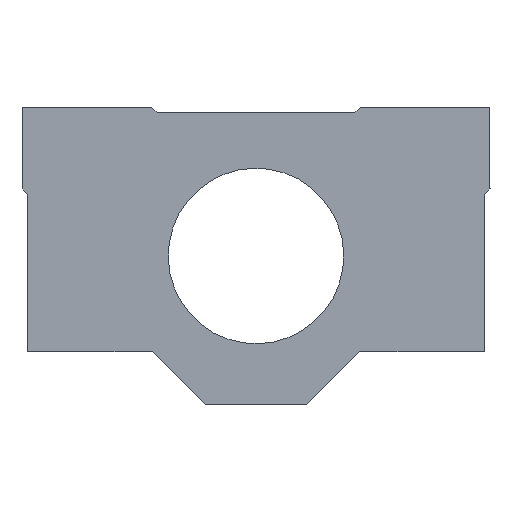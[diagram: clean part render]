
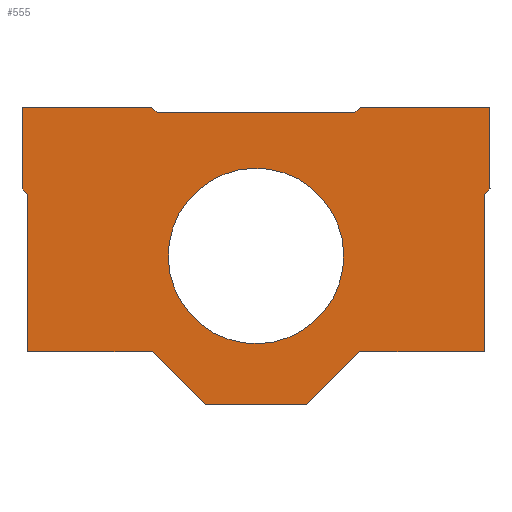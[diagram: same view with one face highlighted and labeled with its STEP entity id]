
A CAD part, left-side view. The second image highlights one B-rep face of the part: STEP entity #555.
In plain terms, the highlighted planar face has unit normal (-1, 0, 0).
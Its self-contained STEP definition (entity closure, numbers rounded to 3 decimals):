
#135=CARTESIAN_POINT('Vertex',(0.,21.5,-9.)) ;
#151=CARTESIAN_POINT('Vertex',(0.,9.75,-9.)) ;
#154=CARTESIAN_POINT('Line Origine',(0.,15.625,-9.)) ;
#197=CARTESIAN_POINT('Vertex',(0.,9.8,14.)) ;
#213=CARTESIAN_POINT('Vertex',(0.,22.,14.)) ;
#216=CARTESIAN_POINT('Line Origine',(0.,15.9,14.)) ;
#255=CARTESIAN_POINT('Line Origine',(0.,21.5,-1.6)) ;
#259=CARTESIAN_POINT('Vertex',(0.,21.5,5.8)) ;
#419=CARTESIAN_POINT('Vertex',(0.,4.75,-14.)) ;
#422=CARTESIAN_POINT('Line Origine',(0.,7.25,-11.5)) ;
#434=CARTESIAN_POINT('Axis2P3D Location',(0.,0.,0.)) ;
#439=CARTESIAN_POINT('Line Origine',(0.,0.,-14.)) ;
#443=CARTESIAN_POINT('Vertex',(0.,-4.75,-14.)) ;
#446=CARTESIAN_POINT('Line Origine',(0.,-7.25,-11.5)) ;
#450=CARTESIAN_POINT('Vertex',(0.,-9.75,-9.)) ;
#453=CARTESIAN_POINT('Line Origine',(0.,-15.625,-9.)) ;
#457=CARTESIAN_POINT('Vertex',(0.,-21.5,-9.)) ;
#460=CARTESIAN_POINT('Line Origine',(0.,-21.5,-1.6)) ;
#464=CARTESIAN_POINT('Vertex',(0.,-21.5,5.8)) ;
#467=CARTESIAN_POINT('Line Origine',(0.,-21.75,6.05)) ;
#471=CARTESIAN_POINT('Vertex',(0.,-22.,6.3)) ;
#474=CARTESIAN_POINT('Line Origine',(0.,-22.,10.15)) ;
#478=CARTESIAN_POINT('Vertex',(0.,-22.,14.)) ;
#481=CARTESIAN_POINT('Line Origine',(0.,-15.9,14.)) ;
#485=CARTESIAN_POINT('Vertex',(0.,-9.8,14.)) ;
#488=CARTESIAN_POINT('Line Origine',(0.,-9.55,13.75)) ;
#492=CARTESIAN_POINT('Vertex',(0.,-9.3,13.5)) ;
#495=CARTESIAN_POINT('Line Origine',(0.,0.,13.5)) ;
#499=CARTESIAN_POINT('Vertex',(0.,9.3,13.5)) ;
#502=CARTESIAN_POINT('Line Origine',(0.,9.55,13.75)) ;
#507=CARTESIAN_POINT('Line Origine',(0.,22.,10.15)) ;
#511=CARTESIAN_POINT('Vertex',(0.,22.,6.3)) ;
#514=CARTESIAN_POINT('Line Origine',(0.,21.75,6.05)) ;
#537=CARTESIAN_POINT('Axis2P3D Location',(0.,0.,0.)) ;
#541=CARTESIAN_POINT('Vertex',(0.,-7.24,-3.955)) ;
#543=CARTESIAN_POINT('Vertex',(0.,7.24,3.955)) ;
#546=CARTESIAN_POINT('Axis2P3D Location',(0.,0.,0.)) ;
#155=DIRECTION('Vector Direction',(0.,-1.,0.)) ;
#217=DIRECTION('Vector Direction',(0.,1.,0.)) ;
#256=DIRECTION('Vector Direction',(0.,0.,-1.)) ;
#423=DIRECTION('Vector Direction',(0.,-0.707,-0.707)) ;
#435=DIRECTION('Axis2P3D Direction',(1.,0.,0.)) ;
#436=DIRECTION('Axis2P3D XDirection',(0.,1.,0.)) ;
#440=DIRECTION('Vector Direction',(0.,-1.,0.)) ;
#447=DIRECTION('Vector Direction',(0.,0.707,-0.707)) ;
#454=DIRECTION('Vector Direction',(0.,1.,0.)) ;
#461=DIRECTION('Vector Direction',(0.,0.,-1.)) ;
#468=DIRECTION('Vector Direction',(0.,0.707,-0.707)) ;
#475=DIRECTION('Vector Direction',(0.,0.,-1.)) ;
#482=DIRECTION('Vector Direction',(0.,1.,0.)) ;
#489=DIRECTION('Vector Direction',(0.,0.707,-0.707)) ;
#496=DIRECTION('Vector Direction',(0.,1.,0.)) ;
#503=DIRECTION('Vector Direction',(0.,0.707,0.707)) ;
#508=DIRECTION('Vector Direction',(0.,0.,1.)) ;
#515=DIRECTION('Vector Direction',(0.,-0.707,-0.707)) ;
#538=DIRECTION('Axis2P3D Direction',(1.,0.,0.)) ;
#547=DIRECTION('Axis2P3D Direction',(1.,0.,0.)) ;
#437=AXIS2_PLACEMENT_3D('Plane Axis2P3D',#434,#435,#436) ;
#539=AXIS2_PLACEMENT_3D('Circle Axis2P3D',#537,#538,$) ;
#548=AXIS2_PLACEMENT_3D('Circle Axis2P3D',#546,#547,$) ;
#520=ORIENTED_EDGE('',*,*,#445,.F.) ;
#521=ORIENTED_EDGE('',*,*,#452,.F.) ;
#522=ORIENTED_EDGE('',*,*,#459,.F.) ;
#523=ORIENTED_EDGE('',*,*,#466,.F.) ;
#524=ORIENTED_EDGE('',*,*,#473,.F.) ;
#525=ORIENTED_EDGE('',*,*,#480,.F.) ;
#526=ORIENTED_EDGE('',*,*,#487,.F.) ;
#527=ORIENTED_EDGE('',*,*,#494,.T.) ;
#528=ORIENTED_EDGE('',*,*,#501,.T.) ;
#529=ORIENTED_EDGE('',*,*,#506,.T.) ;
#530=ORIENTED_EDGE('',*,*,#220,.F.) ;
#531=ORIENTED_EDGE('',*,*,#513,.F.) ;
#532=ORIENTED_EDGE('',*,*,#518,.F.) ;
#533=ORIENTED_EDGE('',*,*,#261,.F.) ;
#534=ORIENTED_EDGE('',*,*,#158,.F.) ;
#535=ORIENTED_EDGE('',*,*,#426,.F.) ;
#552=ORIENTED_EDGE('',*,*,#545,.T.) ;
#553=ORIENTED_EDGE('',*,*,#550,.T.) ;
#554=FACE_BOUND('',#551,.T.) ;
#156=VECTOR('Line Direction',#155,1.) ;
#218=VECTOR('Line Direction',#217,1.) ;
#257=VECTOR('Line Direction',#256,1.) ;
#424=VECTOR('Line Direction',#423,1.) ;
#441=VECTOR('Line Direction',#440,1.) ;
#448=VECTOR('Line Direction',#447,1.) ;
#455=VECTOR('Line Direction',#454,1.) ;
#462=VECTOR('Line Direction',#461,1.) ;
#469=VECTOR('Line Direction',#468,1.) ;
#476=VECTOR('Line Direction',#475,1.) ;
#483=VECTOR('Line Direction',#482,1.) ;
#490=VECTOR('Line Direction',#489,1.) ;
#497=VECTOR('Line Direction',#496,1.) ;
#504=VECTOR('Line Direction',#503,1.) ;
#509=VECTOR('Line Direction',#508,1.) ;
#516=VECTOR('Line Direction',#515,1.) ;
#555=ADVANCED_FACE('BTM16',(#536,#554),#438,.F.) ;
#540=CIRCLE('generated circle',#539,8.25) ;
#549=CIRCLE('generated circle',#548,8.25) ;
#158=EDGE_CURVE('',#152,#136,#157,.F.) ;
#220=EDGE_CURVE('',#214,#198,#219,.F.) ;
#261=EDGE_CURVE('',#136,#260,#258,.F.) ;
#426=EDGE_CURVE('',#420,#152,#425,.F.) ;
#445=EDGE_CURVE('',#444,#420,#442,.F.) ;
#452=EDGE_CURVE('',#451,#444,#449,.T.) ;
#459=EDGE_CURVE('',#458,#451,#456,.T.) ;
#466=EDGE_CURVE('',#465,#458,#463,.T.) ;
#473=EDGE_CURVE('',#472,#465,#470,.T.) ;
#480=EDGE_CURVE('',#479,#472,#477,.T.) ;
#487=EDGE_CURVE('',#486,#479,#484,.F.) ;
#494=EDGE_CURVE('',#486,#493,#491,.T.) ;
#501=EDGE_CURVE('',#493,#500,#498,.T.) ;
#506=EDGE_CURVE('',#500,#198,#505,.T.) ;
#513=EDGE_CURVE('',#512,#214,#510,.T.) ;
#518=EDGE_CURVE('',#260,#512,#517,.F.) ;
#545=EDGE_CURVE('',#542,#544,#540,.T.) ;
#550=EDGE_CURVE('',#544,#542,#549,.T.) ;
#519=EDGE_LOOP('',(#520,#521,#522,#523,#524,#525,#526,#527,#528,#529,#530,#531,#532,#533,#534,#535)) ;
#551=EDGE_LOOP('',(#552,#553)) ;
#536=FACE_OUTER_BOUND('',#519,.T.) ;
#157=LINE('Line',#154,#156) ;
#219=LINE('Line',#216,#218) ;
#258=LINE('Line',#255,#257) ;
#425=LINE('Line',#422,#424) ;
#442=LINE('Line',#439,#441) ;
#449=LINE('Line',#446,#448) ;
#456=LINE('Line',#453,#455) ;
#463=LINE('Line',#460,#462) ;
#470=LINE('Line',#467,#469) ;
#477=LINE('Line',#474,#476) ;
#484=LINE('Line',#481,#483) ;
#491=LINE('Line',#488,#490) ;
#498=LINE('Line',#495,#497) ;
#505=LINE('Line',#502,#504) ;
#510=LINE('Line',#507,#509) ;
#517=LINE('Line',#514,#516) ;
#438=PLANE('',#437) ;
#136=VERTEX_POINT('',#135) ;
#152=VERTEX_POINT('',#151) ;
#198=VERTEX_POINT('',#197) ;
#214=VERTEX_POINT('',#213) ;
#260=VERTEX_POINT('',#259) ;
#420=VERTEX_POINT('',#419) ;
#444=VERTEX_POINT('',#443) ;
#451=VERTEX_POINT('',#450) ;
#458=VERTEX_POINT('',#457) ;
#465=VERTEX_POINT('',#464) ;
#472=VERTEX_POINT('',#471) ;
#479=VERTEX_POINT('',#478) ;
#486=VERTEX_POINT('',#485) ;
#493=VERTEX_POINT('',#492) ;
#500=VERTEX_POINT('',#499) ;
#512=VERTEX_POINT('',#511) ;
#542=VERTEX_POINT('',#541) ;
#544=VERTEX_POINT('',#543) ;
